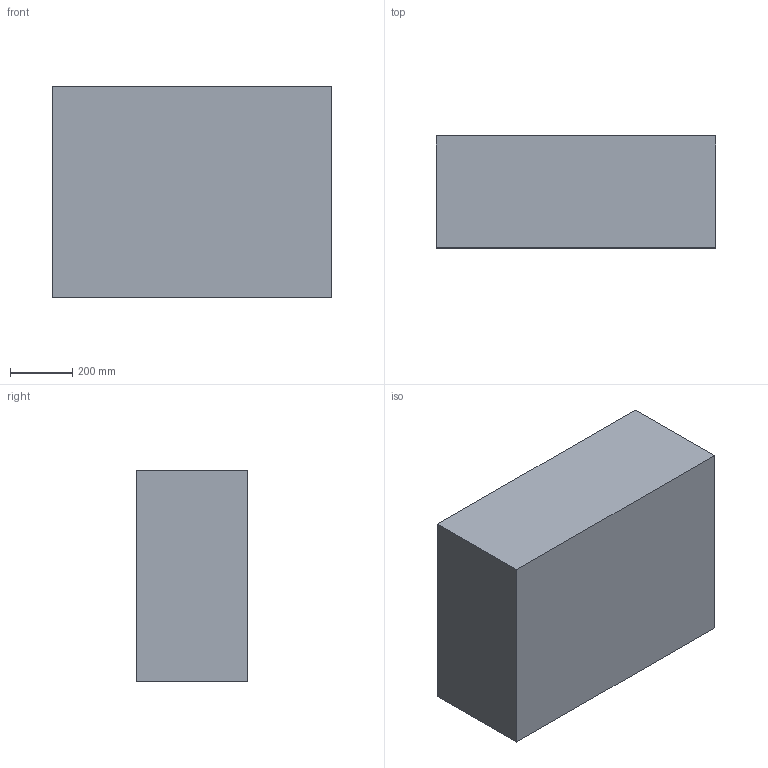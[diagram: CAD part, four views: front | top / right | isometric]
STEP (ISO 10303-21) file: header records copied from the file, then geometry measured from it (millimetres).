
FILE_DESCRIPTION(('FreeCAD Model'),'2;1');
FILE_NAME('Open CASCADE Shape Model','2026-04-01T10:32:58',('FreeCAD'),( 'FreeCAD'),'Open CASCADE STEP processor 7.8','FreeCAD','Unknown');
FILE_SCHEMA(('AUTOMOTIVE_DESIGN { 1 0 10303 214 1 1 1 1 }'));
Length unit declared in the file: millimetre
Products named in the file (1): Open CASCADE STEP translator 7.8 3
Bounding box: 900 x 360 x 680 mm (x, y, z)
Volume: 220320000 mm3; surface area: 2361600 mm2
Topology: 1 solids, 1 shells, 6 faces, 12 edges, 8 vertices
Faces by surface type: plane 6
Entity records: 166 total; most frequent: CARTESIAN_POINT 27, DIRECTION 26, ORIENTED_EDGE 24, EDGE_CURVE 12, LINE 12, VECTOR 12, VERTEX_POINT 8, AXIS2_PLACEMENT_3D 7
